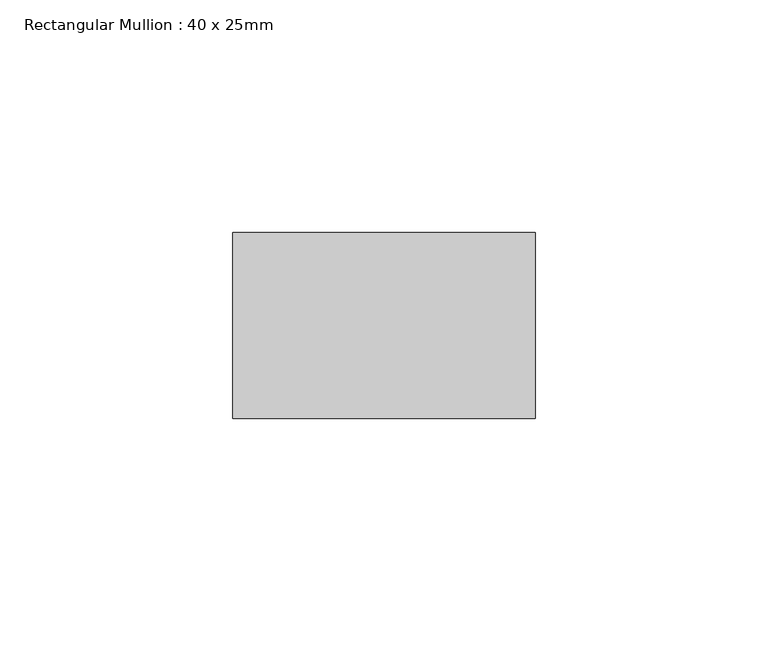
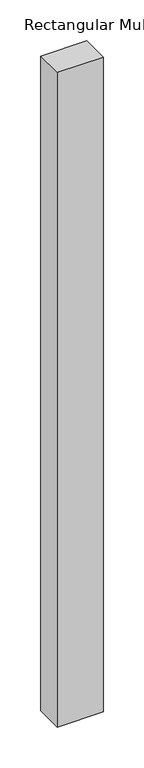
"""IFC4 building model written with IfcOpenShell, lengths in millimetres: member geometry, Rectangular Mullion : 40 x 25mm."""

from ifc_helpers import new_model, si_unit, frame, origin, place, context, project, spatial, polyline, outline, extrude, source, transform, mapped, element, save


def rectangular_mullion_40_x_25mm_9b3c3d92(model_context):
    return source(origin(), model_context, "Body", "SweptSolid", [
        extrude(outline(polyline([(40.0, -20.0), (40.0, -60.0), (-25.0, -60.0), (-25.0, -20.0), (40.0, -20.0)])), frame((0.0, 0.0, -980.0), z_axis=(0.0, 0.0, 1.0), x_axis=(1.0, 0.0, 0.0)), (0.0, 0.0, 1.0), 980.0),
    ])


if __name__ == "__main__":
    model = new_model("IFC4")
    model_context = context("Model", 3, world=origin())
    ifc_project = project(units=[si_unit("LENGTHUNIT", "METRE", prefix="MILLI")], contexts=[model_context])
    site = spatial("IfcSite", under=ifc_project)
    building = spatial("IfcBuilding", under=site)
    placement = place(None, origin())
    rectangular_mullion_40_x_25mm_shape = rectangular_mullion_40_x_25mm_9b3c3d92(model_context)
    element("IfcMember", 1, ObjectType="Rectangular Mullion : 40 x 25mm", at=placement, inside=building, context=model_context, shape_type="MappedRepresentation", body=[
        mapped(rectangular_mullion_40_x_25mm_shape, transform((0.0, 0.0, 0.0), x_axis=(1.0, 0.0, 0.0), y_axis=(0.0, 1.0, 0.0), z_axis=(0.0, 0.0, 1.0))),
    ])
    save(model, "model.ifc")
